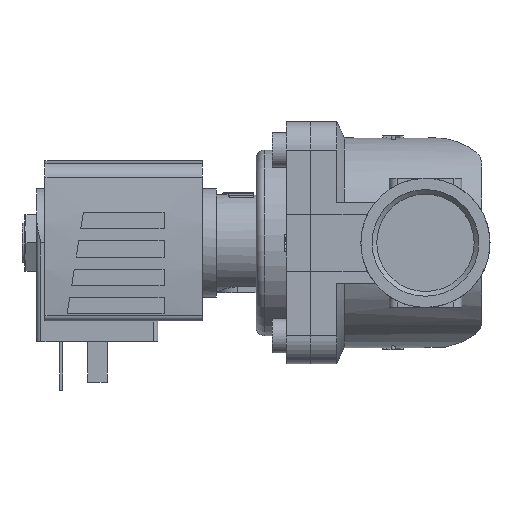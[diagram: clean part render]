
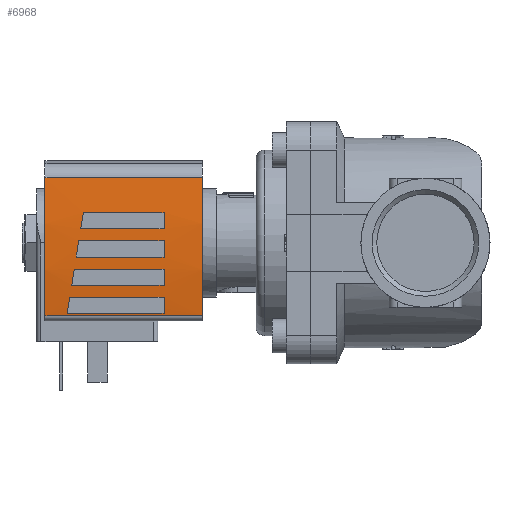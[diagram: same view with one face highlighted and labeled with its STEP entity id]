
A CAD part, left-side view. The second image highlights one B-rep face of the part: STEP entity #6968.
In plain terms, the highlighted cylindrical face has radius 130 mm (diameter 260 mm), a partial arc.
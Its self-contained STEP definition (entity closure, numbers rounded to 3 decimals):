
#163=ELLIPSE('',#7543,131.653,130.);
#164=ELLIPSE('',#7545,131.653,130.);
#165=ELLIPSE('',#7548,131.653,130.);
#166=ELLIPSE('',#7550,131.653,130.);
#246=CYLINDRICAL_SURFACE('',#7542,130.);
#637=LINE('',#10921,#1139);
#639=LINE('',#10941,#1141);
#640=LINE('',#10945,#1142);
#641=LINE('',#10946,#1143);
#642=LINE('',#10951,#1144);
#643=LINE('',#10956,#1145);
#644=LINE('',#10960,#1146);
#645=LINE('',#10964,#1147);
#646=LINE('',#10968,#1148);
#647=LINE('',#10972,#1149);
#1139=VECTOR('',#8972,1000.);
#1141=VECTOR('',#8994,1000.);
#1142=VECTOR('',#8997,1000.);
#1143=VECTOR('',#8998,1000.);
#1144=VECTOR('',#9001,1000.);
#1145=VECTOR('',#9006,1000.);
#1146=VECTOR('',#9009,1000.);
#1147=VECTOR('',#9012,1000.);
#1148=VECTOR('',#9015,1000.);
#1149=VECTOR('',#9018,1000.);
#2529=ORIENTED_EDGE('',*,*,#3569,.F.);
#2530=ORIENTED_EDGE('',*,*,#3570,.F.);
#2531=ORIENTED_EDGE('',*,*,#3571,.F.);
#2532=ORIENTED_EDGE('',*,*,#3572,.F.);
#2533=ORIENTED_EDGE('',*,*,#3573,.F.);
#2534=ORIENTED_EDGE('',*,*,#3574,.F.);
#2535=ORIENTED_EDGE('',*,*,#3575,.F.);
#2536=ORIENTED_EDGE('',*,*,#3576,.F.);
#2537=ORIENTED_EDGE('',*,*,#3577,.T.);
#2538=ORIENTED_EDGE('',*,*,#3578,.F.);
#2539=ORIENTED_EDGE('',*,*,#3563,.F.);
#2540=ORIENTED_EDGE('',*,*,#3560,.T.);
#2541=ORIENTED_EDGE('',*,*,#3579,.F.);
#2542=ORIENTED_EDGE('',*,*,#3580,.F.);
#2543=ORIENTED_EDGE('',*,*,#3581,.F.);
#2544=ORIENTED_EDGE('',*,*,#3582,.F.);
#2545=ORIENTED_EDGE('',*,*,#3583,.F.);
#2546=ORIENTED_EDGE('',*,*,#3584,.F.);
#2547=ORIENTED_EDGE('',*,*,#3585,.F.);
#2548=ORIENTED_EDGE('',*,*,#3586,.F.);
#3560=EDGE_CURVE('',#4183,#4182,#637,.T.);
#3563=EDGE_CURVE('',#4183,#4185,#4464,.T.);
#3569=EDGE_CURVE('',#4189,#4190,#163,.T.);
#3570=EDGE_CURVE('',#4191,#4189,#639,.F.);
#3571=EDGE_CURVE('',#4192,#4191,#4469,.T.);
#3572=EDGE_CURVE('',#4190,#4192,#640,.T.);
#3573=EDGE_CURVE('',#4193,#4194,#641,.T.);
#3574=EDGE_CURVE('',#4195,#4193,#164,.T.);
#3575=EDGE_CURVE('',#4196,#4195,#642,.F.);
#3576=EDGE_CURVE('',#4194,#4196,#4470,.T.);
#3577=EDGE_CURVE('',#4182,#4197,#4471,.T.);
#3578=EDGE_CURVE('',#4185,#4197,#643,.T.);
#3579=EDGE_CURVE('',#4198,#4199,#165,.T.);
#3580=EDGE_CURVE('',#4200,#4198,#644,.F.);
#3581=EDGE_CURVE('',#4201,#4200,#4472,.T.);
#3582=EDGE_CURVE('',#4199,#4201,#645,.T.);
#3583=EDGE_CURVE('',#4202,#4203,#166,.T.);
#3584=EDGE_CURVE('',#4204,#4202,#646,.F.);
#3585=EDGE_CURVE('',#4205,#4204,#4473,.T.);
#3586=EDGE_CURVE('',#4203,#4205,#647,.T.);
#4182=VERTEX_POINT('',#10920);
#4183=VERTEX_POINT('',#10922);
#4185=VERTEX_POINT('',#10928);
#4189=VERTEX_POINT('',#10939);
#4190=VERTEX_POINT('',#10940);
#4191=VERTEX_POINT('',#10942);
#4192=VERTEX_POINT('',#10944);
#4193=VERTEX_POINT('',#10947);
#4194=VERTEX_POINT('',#10948);
#4195=VERTEX_POINT('',#10950);
#4196=VERTEX_POINT('',#10952);
#4197=VERTEX_POINT('',#10955);
#4198=VERTEX_POINT('',#10958);
#4199=VERTEX_POINT('',#10959);
#4200=VERTEX_POINT('',#10961);
#4201=VERTEX_POINT('',#10963);
#4202=VERTEX_POINT('',#10966);
#4203=VERTEX_POINT('',#10967);
#4204=VERTEX_POINT('',#10969);
#4205=VERTEX_POINT('',#10971);
#4464=CIRCLE('',#7537,130.);
#4469=CIRCLE('',#7544,130.);
#4470=CIRCLE('',#7546,130.);
#4471=CIRCLE('',#7547,130.);
#4472=CIRCLE('',#7549,130.);
#4473=CIRCLE('',#7551,130.);
#4787=EDGE_LOOP('',(#2529,#2530,#2531,#2532));
#4788=EDGE_LOOP('',(#2533,#2534,#2535,#2536));
#4789=EDGE_LOOP('',(#2537,#2538,#2539,#2540));
#4790=EDGE_LOOP('',(#2541,#2542,#2543,#2544));
#4791=EDGE_LOOP('',(#2545,#2546,#2547,#2548));
#5179=FACE_BOUND('',#4787,.T.);
#5180=FACE_BOUND('',#4788,.T.);
#5181=FACE_BOUND('',#4789,.T.);
#5182=FACE_BOUND('',#4790,.T.);
#5183=FACE_BOUND('',#4791,.T.);
#6968=ADVANCED_FACE('',(#5179,#5180,#5181,#5182,#5183),#246,.T.);
#7537=AXIS2_PLACEMENT_3D('',#10927,#8979,#8980);
#7542=AXIS2_PLACEMENT_3D('',#10937,#8990,#8991);
#7543=AXIS2_PLACEMENT_3D('',#10938,#8992,#8993);
#7544=AXIS2_PLACEMENT_3D('',#10943,#8995,#8996);
#7545=AXIS2_PLACEMENT_3D('',#10949,#8999,#9000);
#7546=AXIS2_PLACEMENT_3D('',#10953,#9002,#9003);
#7547=AXIS2_PLACEMENT_3D('',#10954,#9004,#9005);
#7548=AXIS2_PLACEMENT_3D('',#10957,#9007,#9008);
#7549=AXIS2_PLACEMENT_3D('',#10962,#9010,#9011);
#7550=AXIS2_PLACEMENT_3D('',#10965,#9013,#9014);
#7551=AXIS2_PLACEMENT_3D('',#10970,#9016,#9017);
#8972=DIRECTION('',(0.,-1.,0.));
#8979=DIRECTION('',(0.,1.,0.));
#8980=DIRECTION('',(1.,0.,0.));
#8990=DIRECTION('',(0.,-1.,0.));
#8991=DIRECTION('',(0.,0.,-1.));
#8992=DIRECTION('',(-0.158,-0.987,0.));
#8993=DIRECTION('',(0.987,-0.158,0.));
#8994=DIRECTION('',(0.,-1.,0.));
#8995=DIRECTION('',(0.,1.,0.));
#8996=DIRECTION('',(0.,0.,1.));
#8997=DIRECTION('',(0.,-1.,0.));
#8998=DIRECTION('',(0.,-1.,0.));
#8999=DIRECTION('',(-0.158,-0.987,0.));
#9000=DIRECTION('',(0.987,-0.158,0.));
#9001=DIRECTION('',(0.,-1.,0.));
#9002=DIRECTION('',(0.,1.,0.));
#9003=DIRECTION('',(0.,0.,1.));
#9004=DIRECTION('',(0.,1.,0.));
#9005=DIRECTION('',(1.,0.,0.));
#9006=DIRECTION('',(0.,-1.,0.));
#9007=DIRECTION('',(-0.158,-0.987,0.));
#9008=DIRECTION('',(0.987,-0.158,0.));
#9009=DIRECTION('',(0.,-1.,0.));
#9010=DIRECTION('',(0.,1.,0.));
#9011=DIRECTION('',(0.,0.,1.));
#9012=DIRECTION('',(0.,-1.,0.));
#9013=DIRECTION('',(-0.158,-0.987,0.));
#9014=DIRECTION('',(0.987,-0.158,0.));
#9015=DIRECTION('',(0.,-1.,0.));
#9016=DIRECTION('',(0.,1.,0.));
#9017=DIRECTION('',(0.,0.,1.));
#9018=DIRECTION('',(0.,-1.,0.));
#10920=CARTESIAN_POINT('',(-18.071,-26.,14.738));
#10921=CARTESIAN_POINT('',(-18.071,13.,14.738));
#10922=CARTESIAN_POINT('',(-18.071,13.,14.738));
#10927=CARTESIAN_POINT('',(0.,13.,-114.));
#10928=CARTESIAN_POINT('',(16.195,13.,14.987));
#10937=CARTESIAN_POINT('',(0.,13.,-114.));
#10938=CARTESIAN_POINT('',(0.,4.7,-114.));
#10939=CARTESIAN_POINT('',(0.5,4.62,15.999));
#10940=CARTESIAN_POINT('',(-3.5,5.26,15.953));
#10941=CARTESIAN_POINT('',(0.5,13.,15.999));
#10942=CARTESIAN_POINT('',(0.5,-16.5,15.999));
#10943=CARTESIAN_POINT('',(0.,-16.5,-114.));
#10944=CARTESIAN_POINT('',(-3.5,-16.5,15.953));
#10945=CARTESIAN_POINT('',(-3.5,13.,15.953));
#10946=CARTESIAN_POINT('',(-17.5,13.,14.817));
#10947=CARTESIAN_POINT('',(-17.5,7.5,14.817));
#10948=CARTESIAN_POINT('',(-17.5,-16.5,14.817));
#10949=CARTESIAN_POINT('',(0.,4.7,-114.));
#10950=CARTESIAN_POINT('',(-13.5,6.86,15.297));
#10951=CARTESIAN_POINT('',(-13.5,13.,15.297));
#10952=CARTESIAN_POINT('',(-13.5,-16.5,15.297));
#10953=CARTESIAN_POINT('',(0.,-16.5,-114.));
#10954=CARTESIAN_POINT('',(0.,-26.,-114.));
#10955=CARTESIAN_POINT('',(16.195,-26.,14.987));
#10956=CARTESIAN_POINT('',(16.195,13.,14.987));
#10957=CARTESIAN_POINT('',(0.,4.7,-114.));
#10958=CARTESIAN_POINT('',(-6.5,5.74,15.837));
#10959=CARTESIAN_POINT('',(-10.5,6.38,15.575));
#10960=CARTESIAN_POINT('',(-6.5,13.,15.837));
#10961=CARTESIAN_POINT('',(-6.5,-16.5,15.837));
#10962=CARTESIAN_POINT('',(0.,-16.5,-114.));
#10963=CARTESIAN_POINT('',(-10.5,-16.5,15.575));
#10964=CARTESIAN_POINT('',(-10.5,13.,15.575));
#10965=CARTESIAN_POINT('',(0.,4.7,-114.));
#10966=CARTESIAN_POINT('',(7.5,3.5,15.783));
#10967=CARTESIAN_POINT('',(3.5,4.14,15.953));
#10968=CARTESIAN_POINT('',(7.5,13.,15.783));
#10969=CARTESIAN_POINT('',(7.5,-16.5,15.783));
#10970=CARTESIAN_POINT('',(0.,-16.5,-114.));
#10971=CARTESIAN_POINT('',(3.5,-16.5,15.953));
#10972=CARTESIAN_POINT('',(3.5,13.,15.953));
